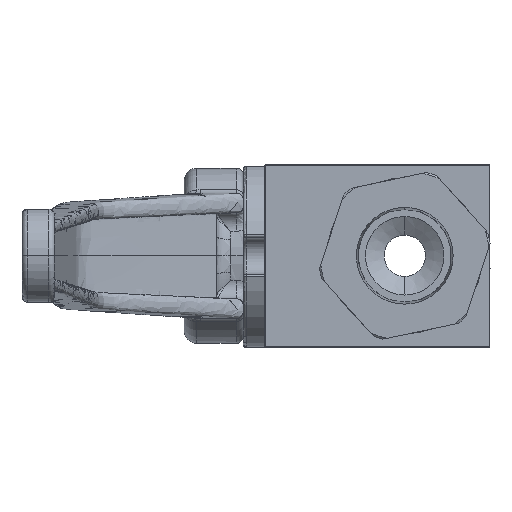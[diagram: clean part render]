
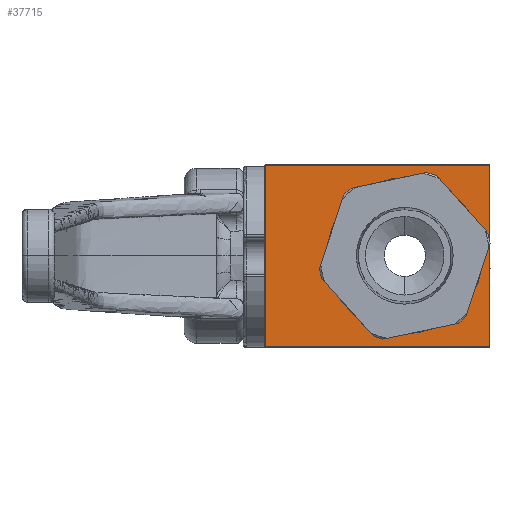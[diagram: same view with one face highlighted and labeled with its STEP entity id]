
A CAD part, left-side view. The second image highlights one B-rep face of the part: STEP entity #37715.
In plain terms, the highlighted planar face has unit normal (-1, 0, 0).
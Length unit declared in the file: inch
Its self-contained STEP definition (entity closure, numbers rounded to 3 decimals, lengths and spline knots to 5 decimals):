
#1283 = AXIS2_PLACEMENT_3D ( 'NONE', #16901, #37306, #19840 ) ;
#1625 = VECTOR ( 'NONE', #37406, 39.37008 ) ;
#1946 = CARTESIAN_POINT ( 'NONE',  ( -0.71, 0.28047, 0. ) ) ;
#2453 = ORIENTED_EDGE ( 'NONE', *, *, #25812, .T. ) ;
#2540 = LINE ( 'NONE', #34595, #1625 ) ;
#2744 = LINE ( 'NONE', #18357, #29714 ) ;
#3089 = FACE_BOUND ( 'NONE', #4628, .T. ) ;
#4574 = EDGE_CURVE ( 'NONE', #31496, #36957, #31794, .T. ) ;
#4628 = EDGE_LOOP ( 'NONE', ( #10102, #15338 ) ) ;
#4943 = CARTESIAN_POINT ( 'NONE',  ( -0.71, -0.15453, 0. ) ) ;
#5560 = DIRECTION ( 'NONE',  ( 0., -1., 0. ) ) ;
#7420 = EDGE_CURVE ( 'NONE', #17255, #18752, #25769, .T. ) ;
#7504 = ORIENTED_EDGE ( 'NONE', *, *, #19283, .T. ) ;
#7881 = DIRECTION ( 'NONE',  ( 0., -1., 0. ) ) ;
#8240 = PLANE ( 'NONE',  #11068 ) ;
#8407 = CARTESIAN_POINT ( 'NONE',  ( -0.71, 0.63, 0.505 ) ) ;
#8586 = EDGE_CURVE ( 'NONE', #21515, #27490, #24815, .T. ) ;
#9436 = VECTOR ( 'NONE', #20136, 39.37008 ) ;
#10102 = ORIENTED_EDGE ( 'NONE', *, *, #37629, .F. ) ;
#11068 = AXIS2_PLACEMENT_3D ( 'NONE', #14097, #34494, #17019 ) ;
#14097 = CARTESIAN_POINT ( 'NONE',  ( -0.71, 0.63, -0.51 ) ) ;
#15338 = ORIENTED_EDGE ( 'NONE', *, *, #7420, .F. ) ;
#16901 = CARTESIAN_POINT ( 'NONE',  ( -0.71, -0.15453, 0. ) ) ;
#16938 = CARTESIAN_POINT ( 'NONE',  ( -0.71, 0.625, 0.505 ) ) ;
#17019 = DIRECTION ( 'NONE',  ( 0., -1., 0. ) ) ;
#17255 = VERTEX_POINT ( 'NONE', #1946 ) ;
#18357 = CARTESIAN_POINT ( 'NONE',  ( -0.71, -0.625, -0.51 ) ) ;
#18752 = VERTEX_POINT ( 'NONE', #28898 ) ;
#19005 = CARTESIAN_POINT ( 'NONE',  ( -0.71, 0.625, -0.505 ) ) ;
#19283 = EDGE_CURVE ( 'NONE', #36957, #21515, #2540, .T. ) ;
#19510 = AXIS2_PLACEMENT_3D ( 'NONE', #4943, #25365, #7881 ) ;
#19530 = FACE_OUTER_BOUND ( 'NONE', #21635, .T. ) ;
#19840 = DIRECTION ( 'NONE',  ( 0., -1., 0. ) ) ;
#20136 = DIRECTION ( 'NONE',  ( 0., 1., 0. ) ) ;
#21515 = VERTEX_POINT ( 'NONE', #19005 ) ;
#21635 = EDGE_LOOP ( 'NONE', ( #37327, #2453, #29305, #7504 ) ) ;
#22989 = VECTOR ( 'NONE', #5560, 39.37008 ) ;
#23053 = CARTESIAN_POINT ( 'NONE',  ( -0.71, -0.63, -0.505 ) ) ;
#24231 = DIRECTION ( 'NONE',  ( 0., 0., 1. ) ) ;
#24815 = LINE ( 'NONE', #23053, #22989 ) ;
#25365 = DIRECTION ( 'NONE',  ( -1., 0., 0. ) ) ;
#25769 = CIRCLE ( 'NONE', #19510, 0.435 ) ;
#25812 = EDGE_CURVE ( 'NONE', #27490, #31496, #2744, .T. ) ;
#26350 = CIRCLE ( 'NONE', #1283, 0.435 ) ;
#27490 = VERTEX_POINT ( 'NONE', #30741 ) ;
#28898 = CARTESIAN_POINT ( 'NONE',  ( -0.71, -0.58953, 0. ) ) ;
#29305 = ORIENTED_EDGE ( 'NONE', *, *, #4574, .T. ) ;
#29714 = VECTOR ( 'NONE', #24231, 39.37008 ) ;
#30098 = CARTESIAN_POINT ( 'NONE',  ( -0.71, -0.625, 0.505 ) ) ;
#30741 = CARTESIAN_POINT ( 'NONE',  ( -0.71, -0.625, -0.505 ) ) ;
#31496 = VERTEX_POINT ( 'NONE', #30098 ) ;
#31794 = LINE ( 'NONE', #8407, #9436 ) ;
#34494 = DIRECTION ( 'NONE',  ( -1., 0., 0. ) ) ;
#34595 = CARTESIAN_POINT ( 'NONE',  ( -0.71, 0.625, -0.51 ) ) ;
#36957 = VERTEX_POINT ( 'NONE', #16938 ) ;
#37306 = DIRECTION ( 'NONE',  ( -1., 0., 0. ) ) ;
#37327 = ORIENTED_EDGE ( 'NONE', *, *, #8586, .T. ) ;
#37406 = DIRECTION ( 'NONE',  ( 0., 0., -1. ) ) ;
#37629 = EDGE_CURVE ( 'NONE', #18752, #17255, #26350, .T. ) ;
#37715 = ADVANCED_FACE ( 'NONE', ( #3089, #19530 ), #8240, .T. ) ;
